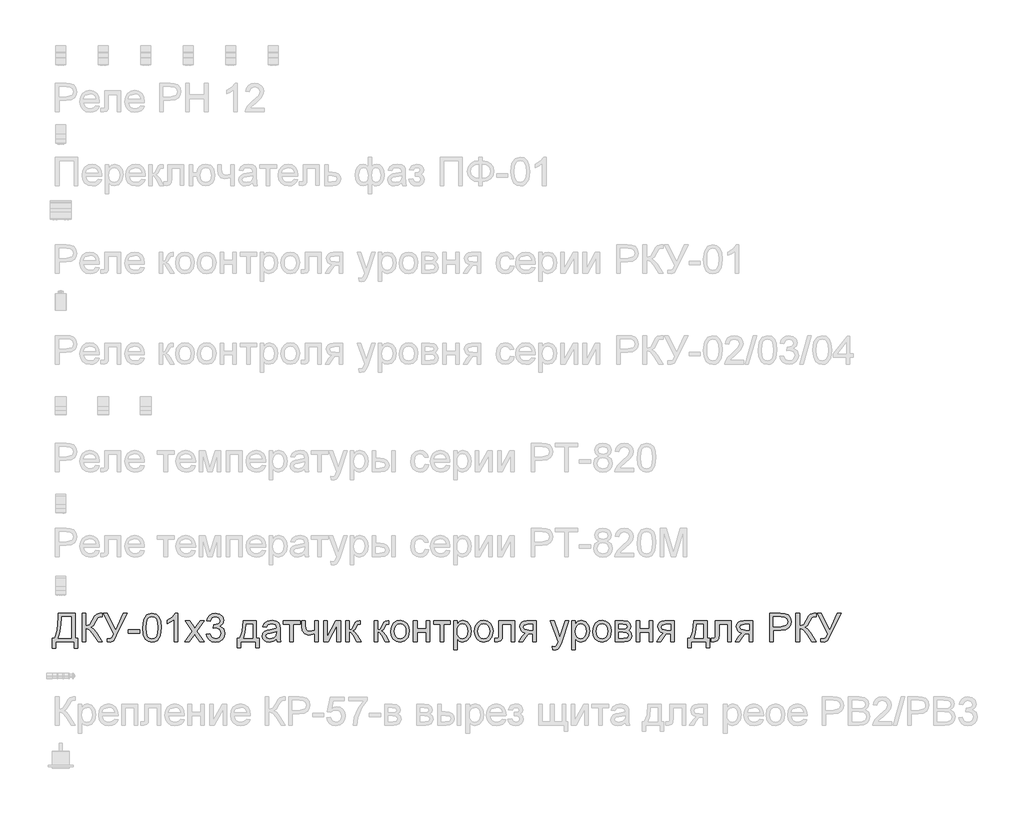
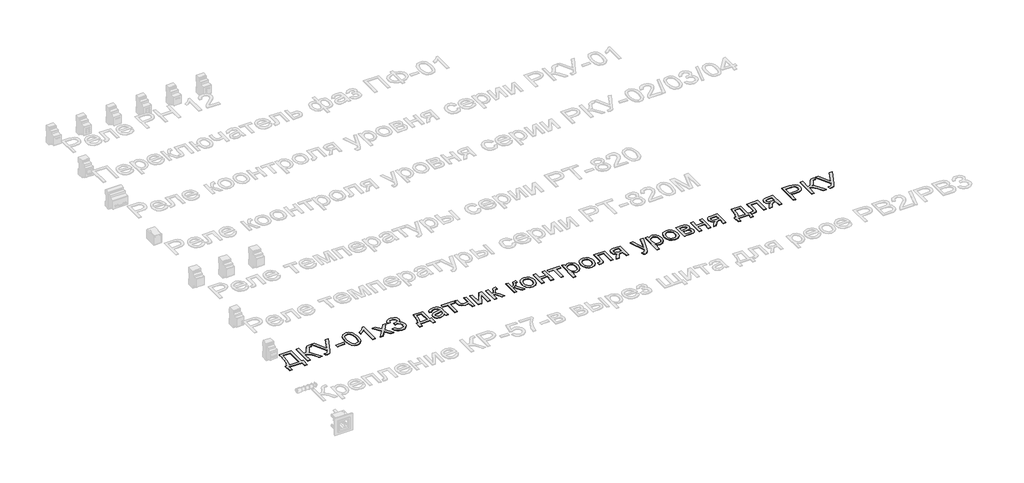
# One storey, part 2 of 34: 1 proxy.
"""IFC4 building model written with IfcOpenShell, lengths in millimetres."""

from ifc_helpers import new_model, si_unit, frame, origin, place, context, project, spatial, polyline, outline, extrude, element, save

model = new_model("IFC4")

# Units and contexts
model_context = context("Model", 3, world=origin())
ifc_project = project(units=[si_unit("LENGTHUNIT", "METRE", prefix="MILLI")], contexts=[model_context])

# Site, building, storey
site = spatial("IfcSite", under=ifc_project)
building = spatial("IfcBuilding", under=site)
storey = spatial("IfcBuildingStorey", under=building, Name="Этаж 01", Elevation=0.0)

# Proxy
placement = place(None, origin())
element("IfcBuildingElementProxy", 1, Name="Надпись на модели 1", ObjectType="Надпись на модели 1", at=placement, inside=storey, context=model_context, shape_type="SweptSolid", body=[
    extrude(outline(polyline([(-19029.594812, 7886.6915941), (-18969.9488778, 7886.6915941), (-18969.9488778, 7798.7923228), (-18960.5310988, 7798.7923228), (-18960.5310988, 7762.6908363), (-18973.0881375, 7762.6908363), (-18973.0881375, 7786.235284), (-19037.4429612, 7786.235284), (-19037.4429612, 7762.6908363), (-19050.0, 7762.6908363), (-19050.0, 7798.7923228), (-19042.1518508, 7798.7923228), (-19032.7340717, 7826.2056628), (-19029.594812, 7872.1479926), (-19029.594812, 7886.6915941)]), holes=[polyline([(-18982.5059166, 7874.1345554), (-19017.0377732, 7874.1345554), (-19017.0377732, 7869.0823093), (-19019.5884217, 7834.67308), (-19023.3653435, 7814.7890582), (-19029.594812, 7798.7923228), (-18982.5059166, 7798.7923228), (-18982.5059166, 7874.1345554)])]), frame((0.0, 0.0, 40.0), z_axis=(0.0, 0.0, 1.0), x_axis=(1.0, 0.0, 0.0)), (0.0, 0.0, 1.0), 2.0),
    extrude(outline(polyline([(-18944.8348003, 7886.6915941), (-18932.2777615, 7886.6915941), (-18932.2777615, 7842.7419585), (-18918.2369321, 7846.0651591), (-18908.4390083, 7862.8773663), (-18901.510564, 7876.9181958), (-18893.6624148, 7883.8711655), (-18882.4420139, 7886.6915941), (-18874.2014572, 7886.5444413), (-18874.2014572, 7873.9874026), (-18876.9728349, 7874.060979), (-18879.7442126, 7874.1345554), (-18889.5543992, 7871.117923), (-18897.0101409, 7858.1930022), (-18905.9006225, 7842.4476529), (-18914.5703748, 7837.248254), (-18904.8766843, 7831.5706085), (-18895.3178838, 7819.737071), (-18874.2014572, 7786.235284), (-18888.7695842, 7786.235284), (-18906.6241237, 7814.5376722), (-18919.1934252, 7829.3142656), (-18932.2777615, 7833.3241794), (-18932.2777615, 7786.235284), (-18944.8348003, 7786.235284), (-18944.8348003, 7886.6915941)])), frame((0.0, 0.0, 40.0), z_axis=(0.0, 0.0, 1.0), x_axis=(1.0, 0.0, 0.0)), (0.0, 0.0, 1.0), 2.0),
    extrude(outline(polyline([(-18870.2773826, 7886.6915941), (-18856.3714432, 7886.6915941), (-18826.3277469, 7827.1928128), (-18799.300683, 7886.6915941), (-18785.5173709, 7886.6915941), (-18823.6544711, 7808.430831), (-18834.0287434, 7789.2028654), (-18845.6292889, 7784.6656541), (-18856.9355289, 7786.235284), (-18856.9355289, 7797.2226929), (-18847.051766, 7797.2226929), (-18839.7186516, 7800.0185961), (-18832.9250974, 7812.7473131), (-18870.2773826, 7886.6915941)])), frame((0.0, 0.0, 40.0), z_axis=(0.0, 0.0, 1.0), x_axis=(1.0, 0.0, 0.0)), (0.0, 0.0, 1.0), 2.0),
    extrude(outline(polyline([(-18781.5932963, 7816.0582511), (-18781.5932963, 7828.6152898), (-18742.3525502, 7828.6152898), (-18742.3525502, 7816.0582511), (-18781.5932963, 7816.0582511)])), frame((0.0, 0.0, 40.0), z_axis=(0.0, 0.0, 1.0), x_axis=(1.0, 0.0, 0.0)), (0.0, 0.0, 1.0), 2.0),
    extrude(outline(polyline([(-18731.3651412, 7835.6540987), (-18727.6740586, 7864.5573608), (-18716.7111751, 7881.2224151), (-18698.4029145, 7886.6915941), (-18683.7366856, 7883.4542326), (-18673.607668, 7874.1222926), (-18667.7215561, 7859.25986), (-18665.4406877, 7835.6540987), (-18669.0949822, 7806.8734639), (-18680.0210775, 7790.1716213), (-18688.2524371, 7786.0421459), (-18698.4029145, 7784.6656541), (-18711.4504626, 7787.0568871), (-18721.358751, 7794.230586), (-18728.8635437, 7811.2206028), (-18731.3651412, 7835.6540987)]), holes=[polyline([(-18718.8081025, 7835.6786241), (-18717.3365745, 7815.9264267), (-18712.9219906, 7804.4944937), (-18706.3491656, 7799.0406431), (-18698.4029145, 7797.2226929), (-18690.4566634, 7799.0467745), (-18683.8838384, 7804.5190192), (-18679.4692545, 7815.9570835), (-18677.9977265, 7835.6786241), (-18679.4202035, 7854.9862975), (-18683.6876347, 7866.5071353), (-18690.2481969, 7872.2277004), (-18698.5500673, 7874.1345554), (-18706.4104792, 7872.4545609), (-18712.7257868, 7867.4145776), (-18717.2875236, 7855.1763699), (-18718.8081025, 7835.6786241)])]), frame((0.0, 0.0, 40.0), z_axis=(0.0, 0.0, 1.0), x_axis=(1.0, 0.0, 0.0)), (0.0, 0.0, 1.0), 2.0),
    extrude(outline(polyline([(-18607.3643834, 7786.235284), (-18619.9214222, 7786.235284), (-18619.9214222, 7864.5205726), (-18631.8162733, 7856.0470239), (-18645.0354997, 7849.7071909), (-18645.0354997, 7861.5775166), (-18626.6291372, 7873.325215), (-18615.4577873, 7886.6915941), (-18607.3643834, 7886.6915941), (-18607.3643834, 7786.235284)])), frame((0.0, 0.0, 40.0), z_axis=(0.0, 0.0, 1.0), x_axis=(1.0, 0.0, 0.0)), (0.0, 0.0, 1.0), 2.0),
    extrude(outline(polyline([(-18582.2503059, 7786.235284), (-18555.4194457, 7823.3177891), (-18580.680676, 7860.0078868), (-18565.5729888, 7860.0078868), (-18553.383832, 7842.349551), (-18547.6939238, 7834.0108924), (-18542.7643051, 7840.8289721), (-18528.8828911, 7860.0078868), (-18513.7752038, 7860.0078868), (-18540.3117584, 7823.3177891), (-18514.7562225, 7786.235284), (-18529.8639098, 7786.235284), (-18545.2413772, 7808.5289329), (-18548.0618058, 7812.6001603), (-18567.1426186, 7786.235284), (-18582.2503059, 7786.235284)])), frame((0.0, 0.0, 40.0), z_axis=(0.0, 0.0, 1.0), x_axis=(1.0, 0.0, 0.0)), (0.0, 0.0, 1.0), 2.0),
    extrude(outline(polyline([(-18506.9080733, 7812.9189914), (-18494.3510345, 7814.4886212), (-18487.4225902, 7801.2693949), (-18474.4608813, 7797.2226929), (-18465.8524426, 7798.6145131), (-18459.2060412, 7802.7899738), (-18453.5406585, 7816.5732859), (-18459.1569903, 7829.5595203), (-18473.4308117, 7834.6976055), (-18482.2354541, 7833.3241794), (-18480.8375025, 7845.8812181), (-18478.8264143, 7845.7340653), (-18464.5771183, 7849.3393089), (-18459.8314406, 7853.9133084), (-18458.249548, 7860.4248197), (-18462.8358102, 7870.247269), (-18474.657085, 7874.1345554), (-18486.6255126, 7870.2104808), (-18492.7814046, 7858.4382569), (-18505.3384434, 7860.0078868), (-18501.6412294, 7871.2834699), (-18495.062273, 7879.7018362), (-18486.0614269, 7884.9441547), (-18475.0985434, 7886.6915941), (-18459.9540679, 7883.2457661), (-18449.3590665, 7873.827987), (-18445.6925093, 7861.1605837), (-18449.1751255, 7849.5845636), (-18459.4758213, 7841.2704305), (-18445.7906111, 7832.6865173), (-18440.9836197, 7816.3525567), (-18443.3871154, 7804.114349), (-18450.5976025, 7793.8872295), (-18461.4807782, 7786.971048), (-18474.9023397, 7784.6656541), (-18487.0424455, 7786.6338228), (-18496.9262085, 7792.5383288), (-18503.7994704, 7801.5698318), (-18506.9080733, 7812.9189914)])), frame((0.0, 0.0, 40.0), z_axis=(0.0, 0.0, 1.0), x_axis=(1.0, 0.0, 0.0)), (0.0, 0.0, 1.0), 2.0),
    extrude(outline(polyline([(-18376.628796, 7860.0078868), (-18329.5399006, 7860.0078868), (-18329.5399006, 7798.7923228), (-18320.1221216, 7798.7923228), (-18320.1221216, 7765.830096), (-18332.6791603, 7765.830096), (-18332.6791603, 7786.235284), (-18384.4769453, 7786.235284), (-18384.4769453, 7765.830096), (-18397.033984, 7765.830096), (-18397.033984, 7798.7923228), (-18389.1858348, 7798.7923228), (-18379.4860129, 7822.7414406), (-18376.628796, 7860.0078868)]), holes=[polyline([(-18365.6413871, 7847.450848), (-18368.5844431, 7818.8418915), (-18375.0591662, 7798.7923228), (-18342.0969394, 7798.7923228), (-18342.0969394, 7847.450848), (-18365.6413871, 7847.450848)])]), frame((0.0, 0.0, 40.0), z_axis=(0.0, 0.0, 1.0), x_axis=(1.0, 0.0, 0.0)), (0.0, 0.0, 1.0), 2.0),
    extrude(outline(polyline([(-18258.9065576, 7795.6530631), (-18271.0834516, 7787.1427262), (-18284.5356699, 7784.6656541), (-18295.0295038, 7786.1555762), (-18302.7703541, 7790.6253425), (-18307.543623, 7797.4127653), (-18309.1347126, 7805.8556571), (-18306.7312169, 7815.7884709), (-18300.4159094, 7822.998958), (-18291.6235297, 7827.1192364), (-18280.7587481, 7829.0076973), (-18258.980134, 7833.3241794), (-18258.9065576, 7836.1200825), (-18262.3646483, 7845.3907088), (-18276.2460623, 7849.0204778), (-18288.9502538, 7846.6047194), (-18295.008044, 7838.0330689), (-18307.5650828, 7839.6026988), (-18302.132692, 7851.8654319), (-18291.194334, 7859.0513936), (-18274.6273815, 7861.5775166), (-18259.4093296, 7859.3456992), (-18250.8131537, 7853.7416301), (-18246.9626555, 7845.2190306), (-18246.3495188, 7834.2316216), (-18246.3495188, 7818.6088996), (-18245.7118567, 7796.7934973), (-18243.2102591, 7786.235284), (-18255.7672979, 7786.235284), (-18258.9065576, 7795.6530631)]), holes=[polyline([(-18258.9065576, 7820.7671406), (-18279.1645928, 7816.9166424), (-18289.9680607, 7814.8810287), (-18294.8608912, 7811.5700907), (-18296.5776739, 7806.7385739), (-18292.8375403, 7799.9450197), (-18281.8623941, 7797.2226929), (-18269.1582025, 7800.2270625), (-18260.9666967, 7807.4988633), (-18258.980134, 7817.210948), (-18258.9065576, 7820.7671406)])]), frame((0.0, 0.0, 40.0), z_axis=(0.0, 0.0, 1.0), x_axis=(1.0, 0.0, 0.0)), (0.0, 0.0, 1.0), 2.0),
    extrude(outline(polyline([(-18235.3621099, 7860.0078868), (-18175.7161757, 7860.0078868), (-18175.7161757, 7847.450848), (-18199.2606234, 7847.450848), (-18199.2606234, 7786.235284), (-18211.8176622, 7786.235284), (-18211.8176622, 7847.450848), (-18235.3621099, 7847.450848), (-18235.3621099, 7860.0078868)])), frame((0.0, 0.0, 40.0), z_axis=(0.0, 0.0, 1.0), x_axis=(1.0, 0.0, 0.0)), (0.0, 0.0, 1.0), 2.0),
    extrude(outline(polyline([(-18169.4376563, 7860.0078868), (-18156.8806176, 7860.0078868), (-18156.8806176, 7845.8566927), (-18155.8628107, 7832.5884154), (-18150.9699802, 7825.4024537), (-18141.2578955, 7822.3367705), (-18123.9183908, 7826.1382177), (-18123.9183908, 7860.0078868), (-18111.361352, 7860.0078868), (-18111.361352, 7786.235284), (-18123.9183908, 7786.235284), (-18123.9183908, 7814.0962138), (-18144.6178844, 7809.7797317), (-18158.8549176, 7814.2801548), (-18167.2303644, 7825.3043519), (-18169.4376563, 7839.6517497), (-18169.4376563, 7860.0078868)])), frame((0.0, 0.0, 40.0), z_axis=(0.0, 0.0, 1.0), x_axis=(1.0, 0.0, 0.0)), (0.0, 0.0, 1.0), 2.0),
    extrude(outline(polyline([(-18092.5257939, 7860.0078868), (-18079.9687551, 7860.0078868), (-18079.9687551, 7803.746467), (-18049.1157185, 7860.0078868), (-18032.8798597, 7860.0078868), (-18032.8798597, 7786.235284), (-18045.4368985, 7786.235284), (-18045.4368985, 7842.1533473), (-18076.0937314, 7786.235284), (-18092.5257939, 7786.235284), (-18092.5257939, 7860.0078868)])), frame((0.0, 0.0, 40.0), z_axis=(0.0, 0.0, 1.0), x_axis=(1.0, 0.0, 0.0)), (0.0, 0.0, 1.0), 2.0),
    extrude(outline(polyline([(-18014.0443016, 7860.0078868), (-18001.4872628, 7860.0078868), (-18001.4872628, 7828.6152898), (-17993.0750279, 7830.8716327), (-17986.1833718, 7844.0172827), (-17980.4566754, 7855.3603109), (-17975.4044294, 7859.0513936), (-17966.2196422, 7860.0078868), (-17963.8161465, 7860.0078868), (-17963.8161465, 7847.3772716), (-17967.2006609, 7847.450848), (-17973.3320274, 7846.1264728), (-17977.6485095, 7837.8613906), (-17982.7130183, 7828.9218582), (-17989.8131408, 7824.5440624), (-17981.8914152, 7819.6573633), (-17974.1168424, 7809.3627988), (-17960.6768868, 7786.235284), (-17974.9507082, 7786.235284), (-17988.1208837, 7808.8722894), (-17994.7427596, 7818.449484), (-18001.4872628, 7820.7671406), (-18001.4872628, 7786.235284), (-18014.0443016, 7786.235284), (-18014.0443016, 7860.0078868)])), frame((0.0, 0.0, 40.0), z_axis=(0.0, 0.0, 1.0), x_axis=(1.0, 0.0, 0.0)), (0.0, 0.0, 1.0), 2.0),
    extrude(outline(polyline([(-17913.5879914, 7860.0078868), (-17901.0309527, 7860.0078868), (-17901.0309527, 7828.6152898), (-17892.6187177, 7830.8716327), (-17885.7270617, 7844.0172827), (-17880.0003653, 7855.3603109), (-17874.9481192, 7859.0513936), (-17865.7633321, 7860.0078868), (-17863.3598364, 7860.0078868), (-17863.3598364, 7847.3772716), (-17866.7443507, 7847.450848), (-17872.8757173, 7846.1264728), (-17877.1921994, 7837.8613906), (-17882.2567082, 7828.9218582), (-17889.3568307, 7824.5440624), (-17881.4351051, 7819.6573633), (-17873.6605322, 7809.3627988), (-17860.2205767, 7786.235284), (-17874.4943981, 7786.235284), (-17887.6645735, 7808.8722894), (-17894.2864494, 7818.449484), (-17901.0309527, 7820.7671406), (-17901.0309527, 7786.235284), (-17913.5879914, 7786.235284), (-17913.5879914, 7860.0078868)])), frame((0.0, 0.0, 40.0), z_axis=(0.0, 0.0, 1.0), x_axis=(1.0, 0.0, 0.0)), (0.0, 0.0, 1.0), 2.0),
    extrude(outline(polyline([(-17855.5116871, 7823.1215854), (-17852.7954917, 7840.9086798), (-17844.6469055, 7853.4105363), (-17834.5792016, 7859.5357715), (-17822.5249349, 7861.5775166), (-17809.3332997, 7859.0912475), (-17798.7965462, 7851.63244), (-17791.8895617, 7839.7897054), (-17789.5872336, 7824.151655), (-17793.658461, 7801.8089551), (-17805.516524, 7789.1660772), (-17822.5249349, 7784.6656541), (-17835.8759856, 7787.1427262), (-17846.4004764, 7794.5739426), (-17853.2338844, 7806.6649975), (-17855.5116871, 7823.1215854)]), holes=[polyline([(-17842.9546484, 7823.1461108), (-17841.5015145, 7811.7816229), (-17837.1421128, 7803.6851533), (-17830.5815506, 7798.838308), (-17822.5249349, 7797.2226929), (-17814.5051074, 7798.8475051), (-17807.9568079, 7803.7219415), (-17803.5974062, 7811.92571), (-17802.1442724, 7823.5385183), (-17803.6066033, 7834.5719125), (-17807.9935961, 7842.5580175), (-17814.5510926, 7847.4048627), (-17822.5249349, 7849.0204778), (-17830.5815506, 7847.4109941), (-17837.1421128, 7842.5825429), (-17841.5015145, 7834.5044674), (-17842.9546484, 7823.1461108)])]), frame((0.0, 0.0, 40.0), z_axis=(0.0, 0.0, 1.0), x_axis=(1.0, 0.0, 0.0)), (0.0, 0.0, 1.0), 2.0),
    extrude(outline(polyline([(-17775.460565, 7860.0078868), (-17762.9035262, 7860.0078868), (-17762.9035262, 7831.7545495), (-17729.9412994, 7831.7545495), (-17729.9412994, 7860.0078868), (-17717.3842607, 7860.0078868), (-17717.3842607, 7786.235284), (-17729.9412994, 7786.235284), (-17729.9412994, 7819.1975108), (-17762.9035262, 7819.1975108), (-17762.9035262, 7786.235284), (-17775.460565, 7786.235284), (-17775.460565, 7860.0078868)])), frame((0.0, 0.0, 40.0), z_axis=(0.0, 0.0, 1.0), x_axis=(1.0, 0.0, 0.0)), (0.0, 0.0, 1.0), 2.0),
    extrude(outline(polyline([(-17704.8272219, 7860.0078868), (-17645.1812878, 7860.0078868), (-17645.1812878, 7847.450848), (-17668.7257354, 7847.450848), (-17668.7257354, 7786.235284), (-17681.2827742, 7786.235284), (-17681.2827742, 7847.450848), (-17704.8272219, 7847.450848), (-17704.8272219, 7860.0078868)])), frame((0.0, 0.0, 40.0), z_axis=(0.0, 0.0, 1.0), x_axis=(1.0, 0.0, 0.0)), (0.0, 0.0, 1.0), 2.0),
    extrude(outline(polyline([(-17634.1938788, 7757.9819468), (-17634.1938788, 7860.0078868), (-17621.6368401, 7860.0078868), (-17621.6368401, 7847.6961027), (-17612.954825, 7858.1071631), (-17601.2316521, 7861.5775166), (-17585.3146244, 7856.7214743), (-17574.9158267, 7843.036264), (-17571.408685, 7823.6856711), (-17575.3695478, 7803.3417968), (-17586.8719915, 7789.4849083), (-17602.752231, 7784.6656541), (-17613.6783262, 7787.890753), (-17621.6368401, 7796.0454705), (-17621.6368401, 7757.9819468), (-17634.1938788, 7757.9819468)]), holes=[polyline([(-17621.6368401, 7822.5329742), (-17620.2787424, 7811.2757851), (-17616.2044493, 7803.4031104), (-17610.1926443, 7798.7677973), (-17603.0220111, 7797.2226929), (-17595.7348819, 7798.8229796), (-17589.5697928, 7803.6238396), (-17585.366741, 7811.7846886), (-17583.9657238, 7823.4649419), (-17585.3330185, 7834.6608173), (-17589.4349027, 7842.6438566), (-17595.4375106, 7847.4263225), (-17602.5069763, 7849.0204778), (-17609.6040331, 7847.325155), (-17615.8365673, 7842.2391864), (-17620.1867719, 7833.9219876), (-17621.6368401, 7822.5329742)])]), frame((0.0, 0.0, 40.0), z_axis=(0.0, 0.0, 1.0), x_axis=(1.0, 0.0, 0.0)), (0.0, 0.0, 1.0), 2.0),
    extrude(outline(polyline([(-17560.4212761, 7823.1215854), (-17557.7050807, 7840.9086798), (-17549.5564945, 7853.4105363), (-17539.4887905, 7859.5357715), (-17527.4345238, 7861.5775166), (-17514.2428886, 7859.0912475), (-17503.7061351, 7851.63244), (-17496.7991507, 7839.7897054), (-17494.4968225, 7824.151655), (-17498.5680499, 7801.8089551), (-17510.4261129, 7789.1660772), (-17527.4345238, 7784.6656541), (-17540.7855746, 7787.1427262), (-17551.3100653, 7794.5739426), (-17558.1434734, 7806.6649975), (-17560.4212761, 7823.1215854)]), holes=[polyline([(-17547.8642373, 7823.1461108), (-17546.4111034, 7811.7816229), (-17542.0517018, 7803.6851533), (-17535.4911395, 7798.838308), (-17527.4345238, 7797.2226929), (-17519.4146963, 7798.8475051), (-17512.8663968, 7803.7219415), (-17508.5069952, 7811.92571), (-17507.0538613, 7823.5385183), (-17508.5161922, 7834.5719125), (-17512.903185, 7842.5580175), (-17519.4606816, 7847.4048627), (-17527.4345238, 7849.0204778), (-17535.4911395, 7847.4109941), (-17542.0517018, 7842.5825429), (-17546.4111034, 7834.5044674), (-17547.8642373, 7823.1461108)])]), frame((0.0, 0.0, 40.0), z_axis=(0.0, 0.0, 1.0), x_axis=(1.0, 0.0, 0.0)), (0.0, 0.0, 1.0), 2.0),
    extrude(outline(polyline([(-17474.0916345, 7860.0078868), (-17417.5849601, 7860.0078868), (-17417.5849601, 7786.3088604), (-17430.1419988, 7786.3088604), (-17430.1419988, 7847.450848), (-17461.5345958, 7847.450848), (-17461.5345958, 7812.2568038), (-17462.3807243, 7796.0209451), (-17467.0283002, 7789.1660772), (-17478.0157091, 7786.235284), (-17488.2183031, 7786.8729461), (-17488.2183031, 7798.7923228), (-17482.6019713, 7798.7923228), (-17476.9243259, 7799.564875), (-17474.6557203, 7802.0174216), (-17474.0916345, 7812.9680423), (-17474.0916345, 7860.0078868)])), frame((0.0, 0.0, 40.0), z_axis=(0.0, 0.0, 1.0), x_axis=(1.0, 0.0, 0.0)), (0.0, 0.0, 1.0), 2.0),
    extrude(outline(polyline([(-17342.2427275, 7860.0078868), (-17342.2427275, 7786.235284), (-17354.7997662, 7786.235284), (-17354.7997662, 7814.4886212), (-17361.6423713, 7814.4886212), (-17370.9620485, 7812.8944659), (-17379.71764, 7802.1768371), (-17389.7240303, 7786.235284), (-17404.2431064, 7786.235284), (-17391.6370167, 7806.3952173), (-17380.9439133, 7816.843066), (-17389.5278266, 7819.4734223), (-17395.5610913, 7824.470486), (-17400.3190318, 7838.6952565), (-17398.6942196, 7847.2914325), (-17393.8197832, 7854.0972494), (-17385.8674007, 7858.5302274), (-17375.0087505, 7860.0078868), (-17342.2427275, 7860.0078868)]), holes=[polyline([(-17354.7997662, 7847.450848), (-17371.354456, 7847.450848), (-17384.7576234, 7844.5445802), (-17387.761993, 7837.7387633), (-17383.3351463, 7829.6330967), (-17367.6511106, 7827.04566), (-17354.7997662, 7827.04566), (-17354.7997662, 7847.450848)])]), frame((0.0, 0.0, 40.0), z_axis=(0.0, 0.0, 1.0), x_axis=(1.0, 0.0, 0.0)), (0.0, 0.0, 1.0), 2.0),
    extrude(outline(polyline([(-17284.1664232, 7757.9819468), (-17285.736053, 7770.0730017), (-17279.3594317, 7768.9693557), (-17273.3997434, 7770.3550445), (-17269.7454489, 7774.2178055), (-17266.3118837, 7783.4639063), (-17265.330865, 7786.5050641), (-17292.0145724, 7860.0078868), (-17278.7708206, 7860.0078868), (-17264.6196265, 7819.050358), (-17259.6900077, 7802.6673464), (-17254.760389, 7817.1373716), (-17240.2167875, 7860.0078868), (-17227.0711375, 7860.0078868), (-17252.7493008, 7784.4694504), (-17259.4202276, 7768.0864389), (-17266.7042911, 7759.2327455), (-17276.4899522, 7756.4123169), (-17284.1664232, 7757.9819468)])), frame((0.0, 0.0, 40.0), z_axis=(0.0, 0.0, 1.0), x_axis=(1.0, 0.0, 0.0)), (0.0, 0.0, 1.0), 2.0),
    extrude(outline(polyline([(-17216.6723398, 7757.9819468), (-17216.6723398, 7860.0078868), (-17204.115301, 7860.0078868), (-17204.115301, 7847.6961027), (-17195.4332859, 7858.1071631), (-17183.710113, 7861.5775166), (-17167.7930853, 7856.7214743), (-17157.3942876, 7843.036264), (-17153.8871459, 7823.6856711), (-17157.8480087, 7803.3417968), (-17169.3504525, 7789.4849083), (-17185.2306919, 7784.6656541), (-17196.1567872, 7787.890753), (-17204.115301, 7796.0454705), (-17204.115301, 7757.9819468), (-17216.6723398, 7757.9819468)]), holes=[polyline([(-17204.115301, 7822.5329742), (-17202.7572033, 7811.2757851), (-17198.6829102, 7803.4031104), (-17192.6711053, 7798.7677973), (-17185.500472, 7797.2226929), (-17178.2133429, 7798.8229796), (-17172.0482538, 7803.6238396), (-17167.845202, 7811.7846886), (-17166.4441847, 7823.4649419), (-17167.8114794, 7834.6608173), (-17171.9133637, 7842.6438566), (-17177.9159716, 7847.4263225), (-17184.9854373, 7849.0204778), (-17192.0824941, 7847.325155), (-17198.3150282, 7842.2391864), (-17202.6652328, 7833.9219876), (-17204.115301, 7822.5329742)])]), frame((0.0, 0.0, 40.0), z_axis=(0.0, 0.0, 1.0), x_axis=(1.0, 0.0, 0.0)), (0.0, 0.0, 1.0), 2.0),
    extrude(outline(polyline([(-17142.899737, 7823.1215854), (-17140.1835416, 7840.9086798), (-17132.0349554, 7853.4105363), (-17121.9672515, 7859.5357715), (-17109.9129848, 7861.5775166), (-17096.7213496, 7859.0912475), (-17086.1845961, 7851.63244), (-17079.2776116, 7839.7897054), (-17076.9752835, 7824.151655), (-17081.0465109, 7801.8089551), (-17092.9045739, 7789.1660772), (-17109.9129848, 7784.6656541), (-17123.2640355, 7787.1427262), (-17133.7885263, 7794.5739426), (-17140.6219343, 7806.6649975), (-17142.899737, 7823.1215854)]), holes=[polyline([(-17130.3426982, 7823.1461108), (-17128.8895644, 7811.7816229), (-17124.5301627, 7803.6851533), (-17117.9696005, 7798.838308), (-17109.9129848, 7797.2226929), (-17101.8931573, 7798.8475051), (-17095.3448578, 7803.7219415), (-17090.9854561, 7811.92571), (-17089.5323222, 7823.5385183), (-17090.9946532, 7834.5719125), (-17095.381646, 7842.5580175), (-17101.9391425, 7847.4048627), (-17109.9129848, 7849.0204778), (-17117.9696005, 7847.4109941), (-17124.5301627, 7842.5825429), (-17128.8895644, 7834.5044674), (-17130.3426982, 7823.1461108)])]), frame((0.0, 0.0, 40.0), z_axis=(0.0, 0.0, 1.0), x_axis=(1.0, 0.0, 0.0)), (0.0, 0.0, 1.0), 2.0),
    extrude(outline(polyline([(-17062.8486149, 7860.0078868), (-17035.1838888, 7860.0078868), (-17020.0148879, 7858.3278923), (-17011.4800256, 7852.1720003), (-17007.9115702, 7841.4421087), (-17010.0698113, 7832.7233055), (-17016.5690599, 7826.5060997), (-17008.1322994, 7819.7002828), (-17004.7723105, 7807.8667453), (-17006.8998948, 7798.2956821), (-17011.9582722, 7791.5573102), (-17019.9658369, 7787.5657905), (-17030.9409831, 7786.235284), (-17062.8486149, 7786.235284), (-17062.8486149, 7860.0078868)]), holes=[polyline([(-17050.2915761, 7798.7923228), (-17034.8895832, 7798.7923228), (-17021.2288985, 7801.0609284), (-17017.3293493, 7808.8968149), (-17019.4753276, 7814.9423424), (-17025.0671339, 7818.4617468), (-17036.1158565, 7819.1975108), (-17050.2915761, 7819.1975108), (-17050.2915761, 7798.7923228)]), polyline([(-17050.2915761, 7831.7545495), (-17037.8816901, 7831.7545495), (-17027.6423079, 7832.3922117), (-17022.6636382, 7834.9428602), (-17020.468609, 7839.5536478), (-17024.3191072, 7845.7095399), (-17037.4892827, 7847.450848), (-17050.2915761, 7847.450848), (-17050.2915761, 7831.7545495)])]), frame((0.0, 0.0, 40.0), z_axis=(0.0, 0.0, 1.0), x_axis=(1.0, 0.0, 0.0)), (0.0, 0.0, 1.0), 2.0),
    extrude(outline(polyline([(-16989.0760121, 7860.0078868), (-16976.5189733, 7860.0078868), (-16976.5189733, 7831.7545495), (-16943.5567466, 7831.7545495), (-16943.5567466, 7860.0078868), (-16930.9997078, 7860.0078868), (-16930.9997078, 7786.235284), (-16943.5567466, 7786.235284), (-16943.5567466, 7819.1975108), (-16976.5189733, 7819.1975108), (-16976.5189733, 7786.235284), (-16989.0760121, 7786.235284), (-16989.0760121, 7860.0078868)])), frame((0.0, 0.0, 40.0), z_axis=(0.0, 0.0, 1.0), x_axis=(1.0, 0.0, 0.0)), (0.0, 0.0, 1.0), 2.0),
    extrude(outline(polyline([(-16855.6574752, 7860.0078868), (-16855.6574752, 7786.235284), (-16868.2145139, 7786.235284), (-16868.2145139, 7814.4886212), (-16875.057119, 7814.4886212), (-16884.3767963, 7812.8944659), (-16893.1323877, 7802.1768371), (-16903.138778, 7786.235284), (-16917.6578541, 7786.235284), (-16905.0517644, 7806.3952173), (-16894.3586611, 7816.843066), (-16902.9425743, 7819.4734223), (-16908.975839, 7824.470486), (-16913.7337795, 7838.6952565), (-16912.1089673, 7847.2914325), (-16907.2345309, 7854.0972494), (-16899.2821484, 7858.5302274), (-16888.4234982, 7860.0078868), (-16855.6574752, 7860.0078868)]), holes=[polyline([(-16868.2145139, 7847.450848), (-16884.7692037, 7847.450848), (-16898.1723711, 7844.5445802), (-16901.1767407, 7837.7387633), (-16896.749894, 7829.6330967), (-16881.0658583, 7827.04566), (-16868.2145139, 7827.04566), (-16868.2145139, 7847.450848)])]), frame((0.0, 0.0, 40.0), z_axis=(0.0, 0.0, 1.0), x_axis=(1.0, 0.0, 0.0)), (0.0, 0.0, 1.0), 2.0),
    extrude(outline(polyline([(-16786.5937619, 7860.0078868), (-16739.5048666, 7860.0078868), (-16739.5048666, 7798.7923228), (-16730.0870875, 7798.7923228), (-16730.0870875, 7765.830096), (-16742.6441263, 7765.830096), (-16742.6441263, 7786.235284), (-16794.4419112, 7786.235284), (-16794.4419112, 7765.830096), (-16806.9989499, 7765.830096), (-16806.9989499, 7798.7923228), (-16799.1508007, 7798.7923228), (-16789.4509788, 7822.7414406), (-16786.5937619, 7860.0078868)]), holes=[polyline([(-16775.606353, 7847.450848), (-16778.549409, 7818.8418915), (-16785.0241321, 7798.7923228), (-16752.0619053, 7798.7923228), (-16752.0619053, 7847.450848), (-16775.606353, 7847.450848)])]), frame((0.0, 0.0, 40.0), z_axis=(0.0, 0.0, 1.0), x_axis=(1.0, 0.0, 0.0)), (0.0, 0.0, 1.0), 2.0),
    extrude(outline(polyline([(-16709.6818995, 7860.0078868), (-16653.175225, 7860.0078868), (-16653.175225, 7786.3088604), (-16665.7322638, 7786.3088604), (-16665.7322638, 7847.450848), (-16697.1248607, 7847.450848), (-16697.1248607, 7812.2568038), (-16697.9709893, 7796.0209451), (-16702.6185652, 7789.1660772), (-16713.6059741, 7786.235284), (-16723.8085681, 7786.8729461), (-16723.8085681, 7798.7923228), (-16718.1922363, 7798.7923228), (-16712.5145908, 7799.564875), (-16710.2459852, 7802.0174216), (-16709.6818995, 7812.9680423), (-16709.6818995, 7860.0078868)])), frame((0.0, 0.0, 40.0), z_axis=(0.0, 0.0, 1.0), x_axis=(1.0, 0.0, 0.0)), (0.0, 0.0, 1.0), 2.0),
    extrude(outline(polyline([(-16577.8329924, 7860.0078868), (-16577.8329924, 7786.235284), (-16590.3900312, 7786.235284), (-16590.3900312, 7814.4886212), (-16597.2326363, 7814.4886212), (-16606.5523135, 7812.8944659), (-16615.307905, 7802.1768371), (-16625.3142953, 7786.235284), (-16639.8333713, 7786.235284), (-16627.2272816, 7806.3952173), (-16616.5341783, 7816.843066), (-16625.1180915, 7819.4734223), (-16631.1513562, 7824.470486), (-16635.9092967, 7838.6952565), (-16634.2844846, 7847.2914325), (-16629.4100481, 7854.0972494), (-16621.4576657, 7858.5302274), (-16610.5990154, 7860.0078868), (-16577.8329924, 7860.0078868)]), holes=[polyline([(-16590.3900312, 7847.450848), (-16606.944721, 7847.450848), (-16620.3478883, 7844.5445802), (-16623.3522579, 7837.7387633), (-16618.9254113, 7829.6330967), (-16603.2413755, 7827.04566), (-16590.3900312, 7827.04566), (-16590.3900312, 7847.450848)])]), frame((0.0, 0.0, 40.0), z_axis=(0.0, 0.0, 1.0), x_axis=(1.0, 0.0, 0.0)), (0.0, 0.0, 1.0), 2.0),
    extrude(outline(polyline([(-16518.1870583, 7786.235284), (-16518.1870583, 7886.6915941), (-16480.9574003, 7886.6915941), (-16465.9478149, 7885.735101), (-16453.7463954, 7881.0384742), (-16445.8369325, 7871.3263895), (-16442.8448256, 7857.6289165), (-16444.8651109, 7845.7892476), (-16450.9259668, 7835.9238788), (-16462.2597979, 7829.2652147), (-16480.099009, 7827.04566), (-16505.6300195, 7827.04566), (-16505.6300195, 7786.235284), (-16518.1870583, 7786.235284)]), holes=[polyline([(-16505.6300195, 7839.6026988), (-16479.363245, 7839.6026988), (-16460.8710434, 7844.2134864), (-16456.7691592, 7849.7623732), (-16455.4018644, 7857.1874581), (-16458.6269632, 7867.5862559), (-16467.1005119, 7873.2761641), (-16479.6575506, 7874.1345554), (-16505.6300195, 7874.1345554), (-16505.6300195, 7839.6026988)])]), frame((0.0, 0.0, 40.0), z_axis=(0.0, 0.0, 1.0), x_axis=(1.0, 0.0, 0.0)), (0.0, 0.0, 1.0), 2.0),
    extrude(outline(polyline([(-16425.5788973, 7886.6915941), (-16413.0218586, 7886.6915941), (-16413.0218586, 7842.7419585), (-16398.9810291, 7846.0651591), (-16389.1831053, 7862.8773663), (-16382.254661, 7876.9181958), (-16374.4065118, 7883.8711655), (-16363.186111, 7886.6915941), (-16354.9455543, 7886.5444413), (-16354.9455543, 7873.9874026), (-16357.716932, 7874.060979), (-16360.4883097, 7874.1345554), (-16370.2984962, 7871.117923), (-16377.754238, 7858.1930022), (-16386.6447195, 7842.4476529), (-16395.3144719, 7837.248254), (-16385.6207813, 7831.5706085), (-16376.0619808, 7819.737071), (-16354.9455543, 7786.235284), (-16369.5136813, 7786.235284), (-16387.3682208, 7814.5376722), (-16399.9375223, 7829.3142656), (-16413.0218586, 7833.3241794), (-16413.0218586, 7786.235284), (-16425.5788973, 7786.235284), (-16425.5788973, 7886.6915941)])), frame((0.0, 0.0, 40.0), z_axis=(0.0, 0.0, 1.0), x_axis=(1.0, 0.0, 0.0)), (0.0, 0.0, 1.0), 2.0),
    extrude(outline(polyline([(-16351.0214797, 7886.6915941), (-16337.1155402, 7886.6915941), (-16307.071844, 7827.1928128), (-16280.04478, 7886.6915941), (-16266.261468, 7886.6915941), (-16304.3985681, 7808.430831), (-16314.7728404, 7789.2028654), (-16326.373386, 7784.6656541), (-16337.679626, 7786.235284), (-16337.679626, 7797.2226929), (-16327.795863, 7797.2226929), (-16320.4627486, 7800.0185961), (-16313.6691944, 7812.7473131), (-16351.0214797, 7886.6915941)])), frame((0.0, 0.0, 40.0), z_axis=(0.0, 0.0, 1.0), x_axis=(1.0, 0.0, 0.0)), (0.0, 0.0, 1.0), 2.0),
])

save(model, "model.ifc")
